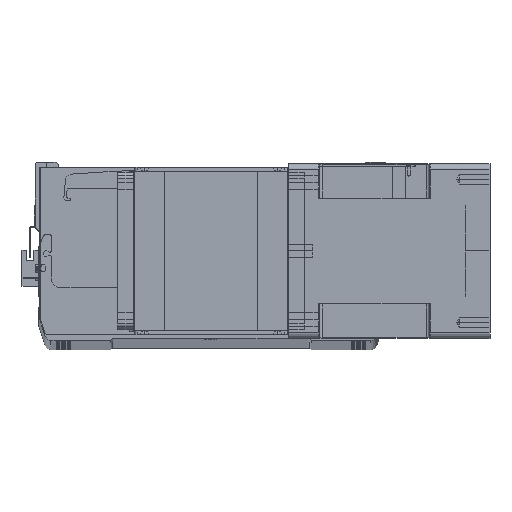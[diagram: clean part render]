
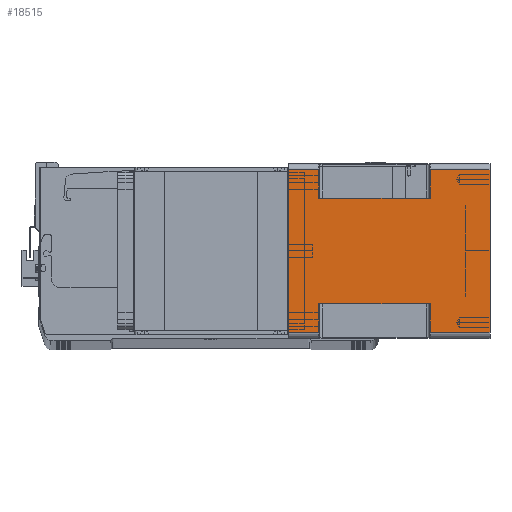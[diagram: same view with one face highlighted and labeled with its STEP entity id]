
A CAD part, top view. The second image highlights one B-rep face of the part: STEP entity #18515.
In plain terms, the highlighted planar face has unit normal (0, 0, 1) as drawn and (1, 0, 0) by its records, which use the part's own axes.
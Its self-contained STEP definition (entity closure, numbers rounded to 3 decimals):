
#392 = VECTOR ( 'NONE', #18800, 1000. ) ;
#528 = CARTESIAN_POINT ( 'NONE',  ( 71., 43., -164. ) ) ;
#612 = LINE ( 'NONE', #2815, #33680 ) ;
#673 = CARTESIAN_POINT ( 'NONE',  ( 71., -66., -24.5 ) ) ;
#820 = CARTESIAN_POINT ( 'NONE',  ( 71., 43., -24.5 ) ) ;
#1551 = CARTESIAN_POINT ( 'NONE',  ( 71., -66., -115.5 ) ) ;
#2815 = CARTESIAN_POINT ( 'NONE',  ( 71., -43., -164. ) ) ;
#3141 = VERTEX_POINT ( 'NONE', #31708 ) ;
#3241 = EDGE_CURVE ( 'NONE', #4243, #27032, #35250, .T. ) ;
#4081 = LINE ( 'NONE', #23822, #5000 ) ;
#4120 = VERTEX_POINT ( 'NONE', #14620 ) ;
#4243 = VERTEX_POINT ( 'NONE', #24383 ) ;
#4355 = ORIENTED_EDGE ( 'NONE', *, *, #25810, .T. ) ;
#5000 = VECTOR ( 'NONE', #20871, 1000. ) ;
#5115 = LINE ( 'NONE', #20529, #36797 ) ;
#5205 = ORIENTED_EDGE ( 'NONE', *, *, #3241, .F. ) ;
#5256 = CARTESIAN_POINT ( 'NONE',  ( 71., -66., -164. ) ) ;
#6314 = EDGE_CURVE ( 'NONE', #27987, #24633, #32057, .T. ) ;
#6418 = ORIENTED_EDGE ( 'NONE', *, *, #11755, .F. ) ;
#6533 = LINE ( 'NONE', #25540, #36878 ) ;
#7858 = DIRECTION ( 'NONE',  ( 0., -1., 0. ) ) ;
#8804 = EDGE_CURVE ( 'NONE', #27032, #9930, #21190, .T. ) ;
#9930 = VERTEX_POINT ( 'NONE', #29321 ) ;
#10054 = VERTEX_POINT ( 'NONE', #820 ) ;
#10288 = ORIENTED_EDGE ( 'NONE', *, *, #18956, .T. ) ;
#10309 = CARTESIAN_POINT ( 'NONE',  ( 71., 66., -24.5 ) ) ;
#10398 = DIRECTION ( 'NONE',  ( 0., 0., 1. ) ) ;
#10611 = VERTEX_POINT ( 'NONE', #27965 ) ;
#11198 = CARTESIAN_POINT ( 'NONE',  ( 71., -66., 0. ) ) ;
#11658 = DIRECTION ( 'NONE',  ( 0., 0., 1. ) ) ;
#11755 = EDGE_CURVE ( 'NONE', #37409, #30387, #612, .T. ) ;
#11958 = VECTOR ( 'NONE', #10398, 1000. ) ;
#12152 = PLANE ( 'NONE',  #12247 ) ;
#12247 = AXIS2_PLACEMENT_3D ( 'NONE', #30466, #27772, #32682 ) ;
#13744 = CARTESIAN_POINT ( 'NONE',  ( 71., -43., -24.5 ) ) ;
#14246 = VECTOR ( 'NONE', #20984, 1000. ) ;
#14620 = CARTESIAN_POINT ( 'NONE',  ( 71., 43., -115.5 ) ) ;
#15565 = EDGE_CURVE ( 'NONE', #10054, #37748, #23442, .T. ) ;
#16115 = VECTOR ( 'NONE', #34066, 1000. ) ;
#17317 = DIRECTION ( 'NONE',  ( 0., 1., 0. ) ) ;
#17353 = VECTOR ( 'NONE', #7858, 1000. ) ;
#18515 = ADVANCED_FACE ( 'NONE', ( #24406 ), #12152, .T. ) ;
#18800 = DIRECTION ( 'NONE',  ( 0., 0., 1. ) ) ;
#18874 = ORIENTED_EDGE ( 'NONE', *, *, #23571, .T. ) ;
#18956 = EDGE_CURVE ( 'NONE', #37748, #9930, #19778, .T. ) ;
#19734 = CARTESIAN_POINT ( 'NONE',  ( 71., -66., 0. ) ) ;
#19778 = LINE ( 'NONE', #24447, #11958 ) ;
#19860 = ORIENTED_EDGE ( 'NONE', *, *, #30482, .T. ) ;
#20316 = VECTOR ( 'NONE', #30597, 1000. ) ;
#20418 = CARTESIAN_POINT ( 'NONE',  ( 71., -66., -164. ) ) ;
#20529 = CARTESIAN_POINT ( 'NONE',  ( 71., -66., -164. ) ) ;
#20871 = DIRECTION ( 'NONE',  ( 0., -1., 0. ) ) ;
#20984 = DIRECTION ( 'NONE',  ( 0., 1., 0. ) ) ;
#21025 = EDGE_CURVE ( 'NONE', #10054, #4120, #36516, .T. ) ;
#21190 = LINE ( 'NONE', #11198, #16115 ) ;
#22117 = ORIENTED_EDGE ( 'NONE', *, *, #28836, .T. ) ;
#23442 = LINE ( 'NONE', #673, #14246 ) ;
#23571 = EDGE_CURVE ( 'NONE', #10611, #3141, #28092, .T. ) ;
#23822 = CARTESIAN_POINT ( 'NONE',  ( 71., 43., -115.5 ) ) ;
#24032 = DIRECTION ( 'NONE',  ( 0., 0., -1. ) ) ;
#24074 = ORIENTED_EDGE ( 'NONE', *, *, #8804, .F. ) ;
#24089 = ORIENTED_EDGE ( 'NONE', *, *, #31270, .T. ) ;
#24369 = CARTESIAN_POINT ( 'NONE',  ( 71., 66., -164. ) ) ;
#24383 = CARTESIAN_POINT ( 'NONE',  ( 71., -66., -24.5 ) ) ;
#24406 = FACE_OUTER_BOUND ( 'NONE', #35519, .T. ) ;
#24447 = CARTESIAN_POINT ( 'NONE',  ( 71., 66., -164. ) ) ;
#24592 = ORIENTED_EDGE ( 'NONE', *, *, #21025, .F. ) ;
#24633 = VERTEX_POINT ( 'NONE', #26869 ) ;
#25540 = CARTESIAN_POINT ( 'NONE',  ( 71., -43., -24.5 ) ) ;
#25810 = EDGE_CURVE ( 'NONE', #37409, #24633, #32499, .T. ) ;
#26584 = DIRECTION ( 'NONE',  ( 0., 0., 1. ) ) ;
#26869 = CARTESIAN_POINT ( 'NONE',  ( 71., -66., -115.5 ) ) ;
#27032 = VERTEX_POINT ( 'NONE', #19734 ) ;
#27401 = VECTOR ( 'NONE', #26584, 1000. ) ;
#27772 = DIRECTION ( 'NONE',  ( 1., 0., 0. ) ) ;
#27965 = CARTESIAN_POINT ( 'NONE',  ( 71., 66., -164. ) ) ;
#27987 = VERTEX_POINT ( 'NONE', #5256 ) ;
#28092 = LINE ( 'NONE', #24369, #20316 ) ;
#28836 = EDGE_CURVE ( 'NONE', #4243, #30387, #6533, .T. ) ;
#29321 = CARTESIAN_POINT ( 'NONE',  ( 71., 66., 0. ) ) ;
#29357 = CARTESIAN_POINT ( 'NONE',  ( 71., -43., -115.5 ) ) ;
#30387 = VERTEX_POINT ( 'NONE', #13744 ) ;
#30466 = CARTESIAN_POINT ( 'NONE',  ( 71., -66., -164. ) ) ;
#30482 = EDGE_CURVE ( 'NONE', #27987, #10611, #5115, .T. ) ;
#30560 = CARTESIAN_POINT ( 'NONE',  ( 71., -66., -164. ) ) ;
#30597 = DIRECTION ( 'NONE',  ( 0., 0., 1. ) ) ;
#30883 = ORIENTED_EDGE ( 'NONE', *, *, #6314, .F. ) ;
#31270 = EDGE_CURVE ( 'NONE', #3141, #4120, #4081, .T. ) ;
#31708 = CARTESIAN_POINT ( 'NONE',  ( 71., 66., -115.5 ) ) ;
#32057 = LINE ( 'NONE', #30560, #392 ) ;
#32499 = LINE ( 'NONE', #1551, #17353 ) ;
#32682 = DIRECTION ( 'NONE',  ( 0., 1., 0. ) ) ;
#33680 = VECTOR ( 'NONE', #11658, 1000. ) ;
#33760 = VECTOR ( 'NONE', #24032, 1000. ) ;
#33907 = ORIENTED_EDGE ( 'NONE', *, *, #15565, .T. ) ;
#34066 = DIRECTION ( 'NONE',  ( 0., 1., 0. ) ) ;
#34516 = DIRECTION ( 'NONE',  ( 0., 1., 0. ) ) ;
#35250 = LINE ( 'NONE', #20418, #27401 ) ;
#35519 = EDGE_LOOP ( 'NONE', ( #6418, #4355, #30883, #19860, #18874, #24089, #24592, #33907, #10288, #24074, #5205, #22117 ) ) ;
#36516 = LINE ( 'NONE', #528, #33760 ) ;
#36797 = VECTOR ( 'NONE', #17317, 1000. ) ;
#36878 = VECTOR ( 'NONE', #34516, 1000. ) ;
#37409 = VERTEX_POINT ( 'NONE', #29357 ) ;
#37748 = VERTEX_POINT ( 'NONE', #10309 ) ;
